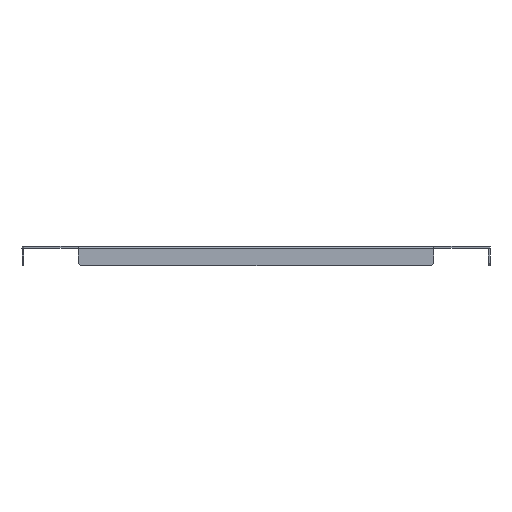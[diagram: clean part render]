
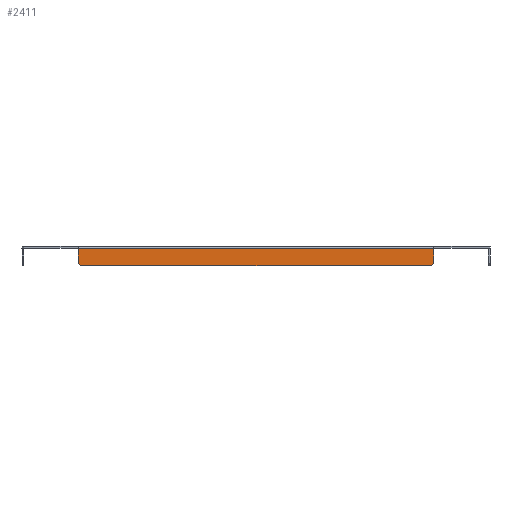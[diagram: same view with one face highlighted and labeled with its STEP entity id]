
A CAD part, left-side view. The second image highlights one B-rep face of the part: STEP entity #2411.
In plain terms, the highlighted planar face has unit normal (-1, 0, 0).
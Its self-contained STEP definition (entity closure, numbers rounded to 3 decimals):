
#15 = VECTOR ( 'NONE', #2024, 1000. ) ;
#192 = VERTEX_POINT ( 'NONE', #607 ) ;
#211 = VECTOR ( 'NONE', #2476, 1000. ) ;
#254 = ORIENTED_EDGE ( 'NONE', *, *, #1320, .F. ) ;
#267 = LINE ( 'NONE', #2122, #691 ) ;
#296 = AXIS2_PLACEMENT_3D ( 'NONE', #834, #797, #791 ) ;
#464 = DIRECTION ( 'NONE',  ( 0., 0.707, 0.707 ) ) ;
#468 = CARTESIAN_POINT ( 'NONE',  ( -449.5, 221., -24. ) ) ;
#554 = EDGE_LOOP ( 'NONE', ( #1318, #1773, #719, #2055, #254, #1890 ) ) ;
#607 = CARTESIAN_POINT ( 'NONE',  ( -449.5, -224., -3. ) ) ;
#691 = VECTOR ( 'NONE', #2119, 1000. ) ;
#703 = DIRECTION ( 'NONE',  ( 0., 1., 0. ) ) ;
#710 = CARTESIAN_POINT ( 'NONE',  ( -449.5, -295., -24. ) ) ;
#719 = ORIENTED_EDGE ( 'NONE', *, *, #2469, .F. ) ;
#732 = LINE ( 'NONE', #2025, #15 ) ;
#791 = DIRECTION ( 'NONE',  ( 0., 0., -1. ) ) ;
#797 = DIRECTION ( 'NONE',  ( 1., 0., 0. ) ) ;
#807 = PLANE ( 'NONE',  #296 ) ;
#834 = CARTESIAN_POINT ( 'NONE',  ( -449.5, -295., 0. ) ) ;
#858 = CARTESIAN_POINT ( 'NONE',  ( -449.5, -221., -24. ) ) ;
#907 = EDGE_CURVE ( 'NONE', #1074, #2088, #1404, .T. ) ;
#927 = LINE ( 'NONE', #468, #1394 ) ;
#930 = DIRECTION ( 'NONE',  ( 0., -1., 0. ) ) ;
#934 = CARTESIAN_POINT ( 'NONE',  ( -449.5, -295., -3. ) ) ;
#1074 = VERTEX_POINT ( 'NONE', #2277 ) ;
#1128 = CARTESIAN_POINT ( 'NONE',  ( -449.5, 224., -21. ) ) ;
#1134 = CARTESIAN_POINT ( 'NONE',  ( -449.5, -224., -21. ) ) ;
#1169 = VERTEX_POINT ( 'NONE', #2232 ) ;
#1227 = EDGE_CURVE ( 'NONE', #2113, #2377, #267, .T. ) ;
#1318 = ORIENTED_EDGE ( 'NONE', *, *, #907, .T. ) ;
#1320 = EDGE_CURVE ( 'NONE', #192, #2113, #732, .T. ) ;
#1394 = VECTOR ( 'NONE', #464, 1000. ) ;
#1404 = LINE ( 'NONE', #2478, #211 ) ;
#1631 = LINE ( 'NONE', #934, #2647 ) ;
#1773 = ORIENTED_EDGE ( 'NONE', *, *, #2597, .F. ) ;
#1890 = ORIENTED_EDGE ( 'NONE', *, *, #2271, .F. ) ;
#1992 = VECTOR ( 'NONE', #703, 1000. ) ;
#2024 = DIRECTION ( 'NONE',  ( 0., 0., -1. ) ) ;
#2025 = CARTESIAN_POINT ( 'NONE',  ( -449.5, -224., -1.586 ) ) ;
#2055 = ORIENTED_EDGE ( 'NONE', *, *, #1227, .F. ) ;
#2056 = LINE ( 'NONE', #710, #1992 ) ;
#2088 = VERTEX_POINT ( 'NONE', #1128 ) ;
#2113 = VERTEX_POINT ( 'NONE', #1134 ) ;
#2119 = DIRECTION ( 'NONE',  ( 0., 0.707, -0.707 ) ) ;
#2122 = CARTESIAN_POINT ( 'NONE',  ( -449.5, -222.5, -22.5 ) ) ;
#2232 = CARTESIAN_POINT ( 'NONE',  ( -449.5, 221., -24. ) ) ;
#2271 = EDGE_CURVE ( 'NONE', #1074, #192, #1631, .T. ) ;
#2277 = CARTESIAN_POINT ( 'NONE',  ( -449.5, 224., -3. ) ) ;
#2377 = VERTEX_POINT ( 'NONE', #858 ) ;
#2402 = FACE_OUTER_BOUND ( 'NONE', #554, .T. ) ;
#2411 = ADVANCED_FACE ( 'NONE', ( #2402 ), #807, .F. ) ;
#2469 = EDGE_CURVE ( 'NONE', #2377, #1169, #2056, .T. ) ;
#2476 = DIRECTION ( 'NONE',  ( 0., 0., -1. ) ) ;
#2478 = CARTESIAN_POINT ( 'NONE',  ( -449.5, 224., -1.586 ) ) ;
#2597 = EDGE_CURVE ( 'NONE', #1169, #2088, #927, .T. ) ;
#2647 = VECTOR ( 'NONE', #930, 1000. ) ;
